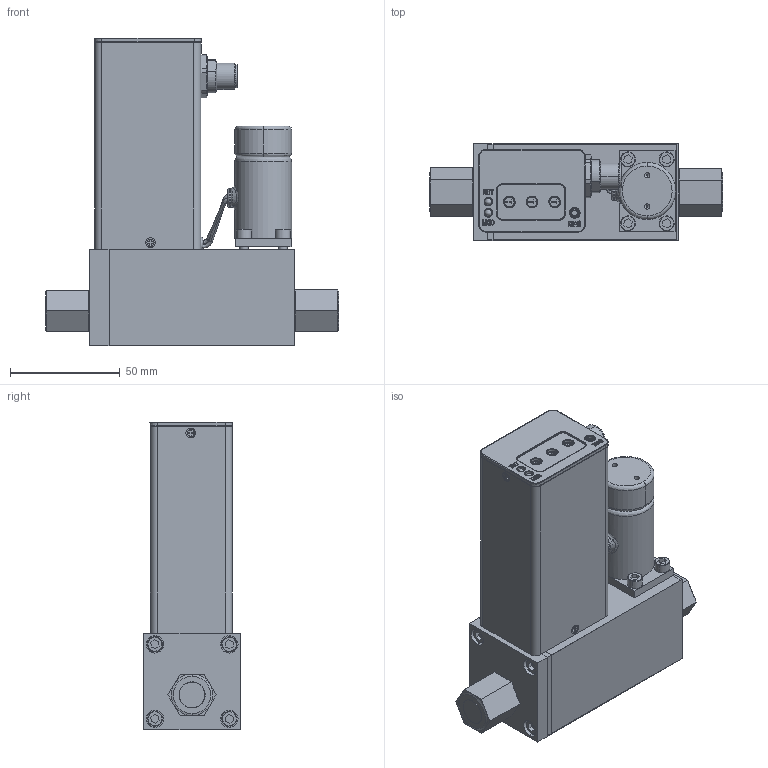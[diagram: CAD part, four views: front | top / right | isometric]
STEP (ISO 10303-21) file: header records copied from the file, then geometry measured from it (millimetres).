
FILE_DESCRIPTION (( 'STEP AP214' ), '1' );
FILE_NAME ('SLA5851-D-T1-1-A-RevB.STEP', '2025-02-24T20:32:20', ( '' ), ( '' ), 'SwSTEP 2.0', 'SolidWorks 2023', '' );
FILE_SCHEMA (( 'AUTOMOTIVE_DESIGN' ));
Length unit declared in the file: inch
Products named in the file (1): SLA5851-D-T1-1-A-RevB
Bounding box: 133.77 x 44.32 x 140.54 mm (x, y, z)
Volume: 52502.9 mm3; surface area: 100750.2 mm2
Topology: 142 solids, 142 shells, 2019 faces, 4714 edges, 3053 vertices
Faces by surface type: plane 1314, cylinder 362, cone 172, bspline 161, torus 10
Entity records: 64880 total; most frequent: CARTESIAN_POINT 17100, ORIENTED_EDGE 9420, DIRECTION 9202, EDGE_CURVE 4710, VECTOR 3344, LINE 3344, VERTEX_POINT 3053, AXIS2_PLACEMENT_3D 2929
